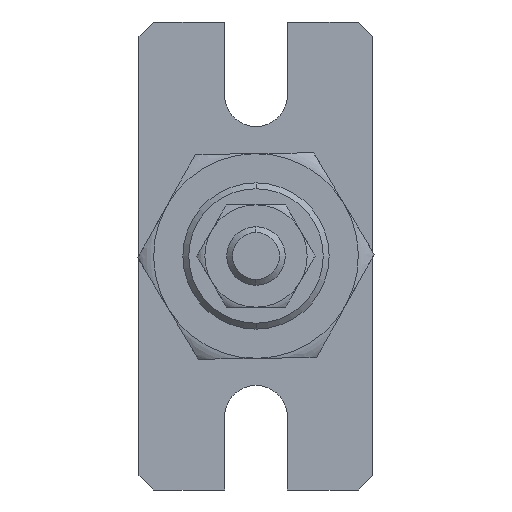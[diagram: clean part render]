
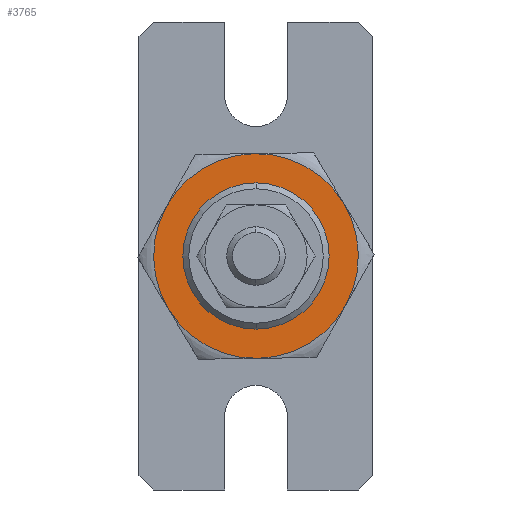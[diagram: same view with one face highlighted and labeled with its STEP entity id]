
A CAD part, left-side view. The second image highlights one B-rep face of the part: STEP entity #3765.
In plain terms, the highlighted planar face has unit normal (-1, 0, 0).
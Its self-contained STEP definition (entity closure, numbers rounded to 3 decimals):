
#40 = AXIS2_PLACEMENT_3D ( 'NONE', #2849, #1658, #1483 ) ;
#114 = CARTESIAN_POINT ( 'NONE',  ( -1.5, 0., 0. ) ) ;
#176 = AXIS2_PLACEMENT_3D ( 'NONE', #270, #1823, #2829 ) ;
#195 = ORIENTED_EDGE ( 'NONE', *, *, #2017, .F. ) ;
#199 = CARTESIAN_POINT ( 'NONE',  ( -1.5, 0., -4.5 ) ) ;
#270 = CARTESIAN_POINT ( 'NONE',  ( -1.5, 0., 0. ) ) ;
#369 = EDGE_CURVE ( 'NONE', #2535, #1546, #2840, .T. ) ;
#414 = EDGE_CURVE ( 'NONE', #1546, #2535, #3230, .T. ) ;
#432 = DIRECTION ( 'NONE',  ( 0., 0., -1. ) ) ;
#434 = CARTESIAN_POINT ( 'NONE',  ( -1.5, 0., -7. ) ) ;
#456 = CARTESIAN_POINT ( 'NONE',  ( -1.5, 6.062, -3.5 ) ) ;
#461 = CARTESIAN_POINT ( 'NONE',  ( -1.5, 0., 0. ) ) ;
#621 = CARTESIAN_POINT ( 'NONE',  ( -1.5, 0., 4.5 ) ) ;
#630 = ORIENTED_EDGE ( 'NONE', *, *, #946, .F. ) ;
#644 = CIRCLE ( 'NONE', #3827, 7. ) ;
#656 = DIRECTION ( 'NONE',  ( 0., 0., -1. ) ) ;
#666 = PLANE ( 'NONE',  #40 ) ;
#744 = ORIENTED_EDGE ( 'NONE', *, *, #2324, .F. ) ;
#946 = EDGE_CURVE ( 'NONE', #1281, #2975, #3754, .T. ) ;
#992 = CARTESIAN_POINT ( 'NONE',  ( -1.5, 0., 0. ) ) ;
#1019 = EDGE_LOOP ( 'NONE', ( #2417, #2607 ) ) ;
#1039 = CARTESIAN_POINT ( 'NONE',  ( -1.5, 0., 0. ) ) ;
#1095 = CARTESIAN_POINT ( 'NONE',  ( -1.5, 0., 0. ) ) ;
#1134 = DIRECTION ( 'NONE',  ( 1., 0., 0. ) ) ;
#1214 = DIRECTION ( 'NONE',  ( 1., 0., 0. ) ) ;
#1281 = VERTEX_POINT ( 'NONE', #2695 ) ;
#1345 = DIRECTION ( 'NONE',  ( 1., 0., 0. ) ) ;
#1437 = DIRECTION ( 'NONE',  ( 1., 0., 0. ) ) ;
#1456 = CIRCLE ( 'NONE', #176, 7. ) ;
#1480 = AXIS2_PLACEMENT_3D ( 'NONE', #1039, #1345, #656 ) ;
#1483 = DIRECTION ( 'NONE',  ( 0., 0., -1. ) ) ;
#1546 = VERTEX_POINT ( 'NONE', #621 ) ;
#1658 = DIRECTION ( 'NONE',  ( 1., 0., 0. ) ) ;
#1660 = CIRCLE ( 'NONE', #1480, 7. ) ;
#1691 = ORIENTED_EDGE ( 'NONE', *, *, #1819, .F. ) ;
#1739 = VERTEX_POINT ( 'NONE', #2130 ) ;
#1819 = EDGE_CURVE ( 'NONE', #2975, #2487, #644, .T. ) ;
#1823 = DIRECTION ( 'NONE',  ( -1., 0., 0. ) ) ;
#1846 = VERTEX_POINT ( 'NONE', #456 ) ;
#1850 = DIRECTION ( 'NONE',  ( 0., 0., -1. ) ) ;
#2017 = EDGE_CURVE ( 'NONE', #1739, #1281, #1660, .T. ) ;
#2078 = AXIS2_PLACEMENT_3D ( 'NONE', #114, #2217, #432 ) ;
#2082 = DIRECTION ( 'NONE',  ( 0., 0., -1. ) ) ;
#2087 = FACE_OUTER_BOUND ( 'NONE', #3271, .T. ) ;
#2130 = CARTESIAN_POINT ( 'NONE',  ( -1.5, 0., 7. ) ) ;
#2217 = DIRECTION ( 'NONE',  ( 1., 0., 0. ) ) ;
#2244 = AXIS2_PLACEMENT_3D ( 'NONE', #3547, #1437, #1850 ) ;
#2324 = EDGE_CURVE ( 'NONE', #2487, #1846, #2663, .T. ) ;
#2331 = DIRECTION ( 'NONE',  ( 0., 0., -1. ) ) ;
#2366 = AXIS2_PLACEMENT_3D ( 'NONE', #461, #3379, #2082 ) ;
#2417 = ORIENTED_EDGE ( 'NONE', *, *, #369, .T. ) ;
#2478 = CIRCLE ( 'NONE', #2078, 7. ) ;
#2487 = VERTEX_POINT ( 'NONE', #434 ) ;
#2535 = VERTEX_POINT ( 'NONE', #199 ) ;
#2607 = ORIENTED_EDGE ( 'NONE', *, *, #414, .T. ) ;
#2651 = VERTEX_POINT ( 'NONE', #3652 ) ;
#2663 = CIRCLE ( 'NONE', #2790, 7. ) ;
#2695 = CARTESIAN_POINT ( 'NONE',  ( -1.5, -6.062, 3.5 ) ) ;
#2756 = CARTESIAN_POINT ( 'NONE',  ( -1.5, 0., 0. ) ) ;
#2790 = AXIS2_PLACEMENT_3D ( 'NONE', #992, #1134, #2331 ) ;
#2829 = DIRECTION ( 'NONE',  ( 0., 0., 1. ) ) ;
#2840 = CIRCLE ( 'NONE', #3761, 4.5 ) ;
#2849 = CARTESIAN_POINT ( 'NONE',  ( -1.5, 0., 0. ) ) ;
#2975 = VERTEX_POINT ( 'NONE', #3763 ) ;
#3007 = DIRECTION ( 'NONE',  ( 0., 0., -1. ) ) ;
#3230 = CIRCLE ( 'NONE', #2244, 4.5 ) ;
#3271 = EDGE_LOOP ( 'NONE', ( #744, #1691, #630, #195, #3627, #3659 ) ) ;
#3365 = DIRECTION ( 'NONE',  ( 1., 0., 0. ) ) ;
#3369 = EDGE_CURVE ( 'NONE', #1739, #2651, #1456, .T. ) ;
#3379 = DIRECTION ( 'NONE',  ( 1., 0., 0. ) ) ;
#3547 = CARTESIAN_POINT ( 'NONE',  ( -1.5, 0., 0. ) ) ;
#3568 = EDGE_CURVE ( 'NONE', #1846, #2651, #2478, .T. ) ;
#3627 = ORIENTED_EDGE ( 'NONE', *, *, #3369, .T. ) ;
#3630 = DIRECTION ( 'NONE',  ( 0., 0., -1. ) ) ;
#3648 = FACE_BOUND ( 'NONE', #1019, .T. ) ;
#3652 = CARTESIAN_POINT ( 'NONE',  ( -1.5, 6.062, 3.5 ) ) ;
#3659 = ORIENTED_EDGE ( 'NONE', *, *, #3568, .F. ) ;
#3754 = CIRCLE ( 'NONE', #2366, 7. ) ;
#3761 = AXIS2_PLACEMENT_3D ( 'NONE', #2756, #1214, #3007 ) ;
#3763 = CARTESIAN_POINT ( 'NONE',  ( -1.5, -6.062, -3.5 ) ) ;
#3765 = ADVANCED_FACE ( 'NONE', ( #3648, #2087 ), #666, .F. ) ;
#3827 = AXIS2_PLACEMENT_3D ( 'NONE', #1095, #3365, #3630 ) ;
